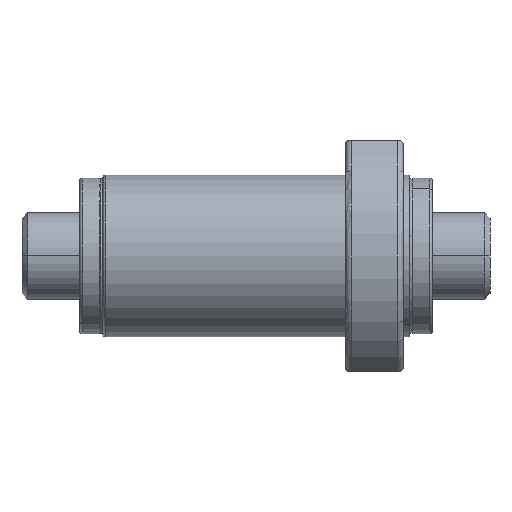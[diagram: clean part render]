
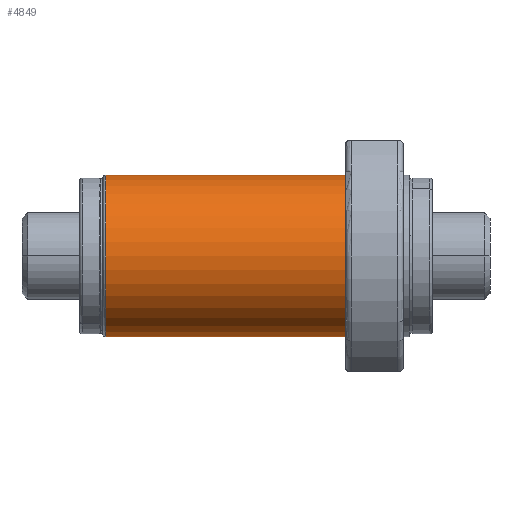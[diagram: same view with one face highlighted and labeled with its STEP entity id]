
A CAD part, front view. The second image highlights one B-rep face of the part: STEP entity #4849.
In plain terms, the highlighted cylindrical face has radius 14 mm (diameter 28 mm), a partial arc.
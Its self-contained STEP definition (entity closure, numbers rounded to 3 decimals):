
#218 = DIRECTION ( 'NONE',  ( -1., 0., 0. ) ) ;
#271 = FACE_OUTER_BOUND ( 'NONE', #3780, .T. ) ;
#347 = EDGE_CURVE ( 'NONE', #2951, #1564, #813, .T. ) ;
#502 = EDGE_CURVE ( 'NONE', #2258, #1230, #4379, .T. ) ;
#611 = DIRECTION ( 'NONE',  ( 1., 0., 0. ) ) ;
#813 = LINE ( 'NONE', #2809, #5243 ) ;
#835 = CIRCLE ( 'NONE', #4737, 14. ) ;
#885 = ORIENTED_EDGE ( 'NONE', *, *, #502, .T. ) ;
#1028 = DIRECTION ( 'NONE',  ( 1., 0., 0. ) ) ;
#1230 = VERTEX_POINT ( 'NONE', #5774 ) ;
#1417 = ORIENTED_EDGE ( 'NONE', *, *, #347, .F. ) ;
#1564 = VERTEX_POINT ( 'NONE', #1670 ) ;
#1628 = DIRECTION ( 'NONE',  ( 0., 0., -1. ) ) ;
#1670 = CARTESIAN_POINT ( 'NONE',  ( -1., 0., 14. ) ) ;
#1695 = CARTESIAN_POINT ( 'NONE',  ( -42.5, 0., 0. ) ) ;
#1970 = ORIENTED_EDGE ( 'NONE', *, *, #5407, .T. ) ;
#2214 = DIRECTION ( 'NONE',  ( 0., 0., 1. ) ) ;
#2258 = VERTEX_POINT ( 'NONE', #6344 ) ;
#2466 = DIRECTION ( 'NONE',  ( 1., 0., 0. ) ) ;
#2809 = CARTESIAN_POINT ( 'NONE',  ( -27., 0., 14. ) ) ;
#2951 = VERTEX_POINT ( 'NONE', #5304 ) ;
#3286 = ORIENTED_EDGE ( 'NONE', *, *, #5409, .T. ) ;
#3780 = EDGE_LOOP ( 'NONE', ( #1417, #1970, #885, #3286 ) ) ;
#3783 = CIRCLE ( 'NONE', #5711, 14. ) ;
#3989 = AXIS2_PLACEMENT_3D ( 'NONE', #4425, #2466, #5448 ) ;
#4105 = CARTESIAN_POINT ( 'NONE',  ( -1., 0., 0. ) ) ;
#4379 = LINE ( 'NONE', #5503, #5675 ) ;
#4425 = CARTESIAN_POINT ( 'NONE',  ( -27., 0., 0. ) ) ;
#4627 = CYLINDRICAL_SURFACE ( 'NONE', #3989, 14. ) ;
#4737 = AXIS2_PLACEMENT_3D ( 'NONE', #1695, #611, #2214 ) ;
#4849 = ADVANCED_FACE ( 'NONE', ( #271 ), #4627, .T. ) ;
#4950 = DIRECTION ( 'NONE',  ( 1., 0., 0. ) ) ;
#5243 = VECTOR ( 'NONE', #4950, 1000. ) ;
#5304 = CARTESIAN_POINT ( 'NONE',  ( -42.5, 0., 14. ) ) ;
#5407 = EDGE_CURVE ( 'NONE', #2951, #2258, #835, .T. ) ;
#5409 = EDGE_CURVE ( 'NONE', #1230, #1564, #3783, .T. ) ;
#5448 = DIRECTION ( 'NONE',  ( 0., 0., -1. ) ) ;
#5503 = CARTESIAN_POINT ( 'NONE',  ( -27., 0., -14. ) ) ;
#5675 = VECTOR ( 'NONE', #1028, 1000. ) ;
#5711 = AXIS2_PLACEMENT_3D ( 'NONE', #4105, #218, #1628 ) ;
#5774 = CARTESIAN_POINT ( 'NONE',  ( -1., 0., -14. ) ) ;
#6344 = CARTESIAN_POINT ( 'NONE',  ( -42.5, 0., -14. ) ) ;
